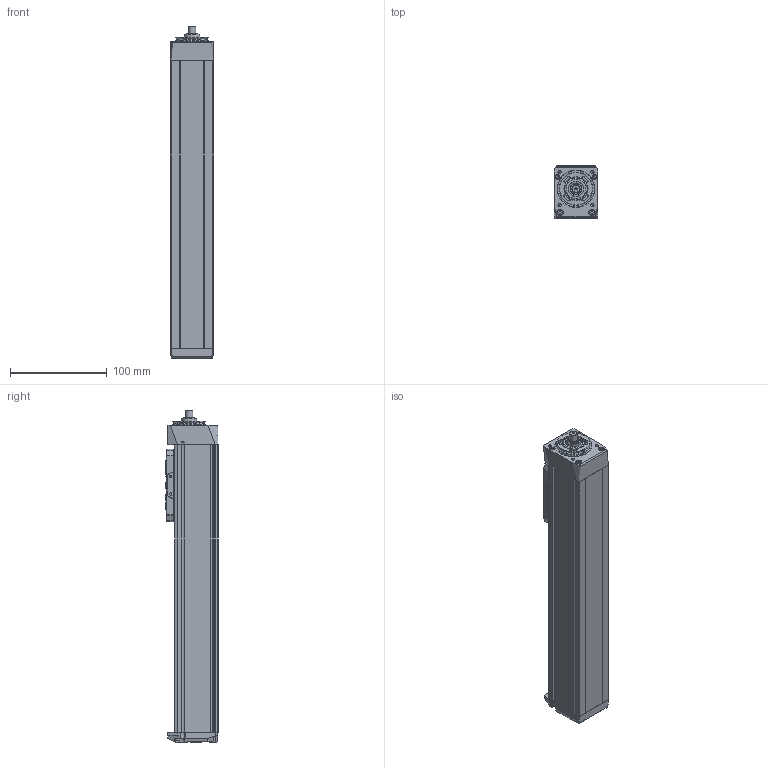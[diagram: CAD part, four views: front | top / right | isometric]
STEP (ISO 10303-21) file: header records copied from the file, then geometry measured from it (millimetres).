
FILE_DESCRIPTION(/* description */ ('STEP AP214'),/* implementation_level */ '2;1');
FILE_NAME(/* name */ 'MGBS 45 1003 200(0)',/* time_stamp */ '2023-04-12T11:06:10+02:00',/* author */ ('License CC BY-ND 4.0'),/* organization */ ('CADENAS'),/* preprocessor_version */ 'ST-DEVELOPER v19.3',/* originating_system */ 'PARTsolutions',/* authorisation */ ' ');
FILE_SCHEMA (('AUTOMOTIVE_DESIGN {1 0 10303 214 3 1 1}'));
Length unit declared in the file: millimetre
Products named in the file (6): MGBS 45 1003 200(0); MGBS 45 200_protection_strip; MGBS 45_carriage; MGBS 45_end_block; MGBS 45 200_profile; MGBS 45_drive_block
Assembly tree (5 placements, depth 2):
  MGBS 45 1003 200(0)
    MGBS 45 200_protection_strip
    MGBS 45_carriage
    MGBS 45_end_block
    MGBS 45 200_profile
    MGBS 45_drive_block
Bounding box: 45 x 54 x 343 mm (x, y, z)
Volume: 662636.6 mm3; surface area: 116647.4 mm2
Topology: 5 solids, 5 shells, 655 faces, 1721 edges, 1113 vertices
Faces by surface type: plane 312, cylinder 156, cone 94, bspline 64, torus 27, sphere 2
Full cylindrical faces by diameter (mm): 1 x1, 1.755 x4, 2.459 x6, 2.46 x2, 2.5 x8, 3 x4, 3.242 x8, 3.8 x6, 4 x2, 4.5 x4, 5 x2, 5.5 x4, 6.5 x4, 8 x1, 11 x2, 16 x1, 24.5 x1, 34 x2, 38.2 x1
Entity records: 23967 total; most frequent: CARTESIAN_POINT 4130, DIRECTION 3272, ORIENTED_EDGE 3064, EDGE_CURVE 1532, AXIS2_PLACEMENT_3D 1183, VERTEX_POINT 1095, LINE 906, VECTOR 906
